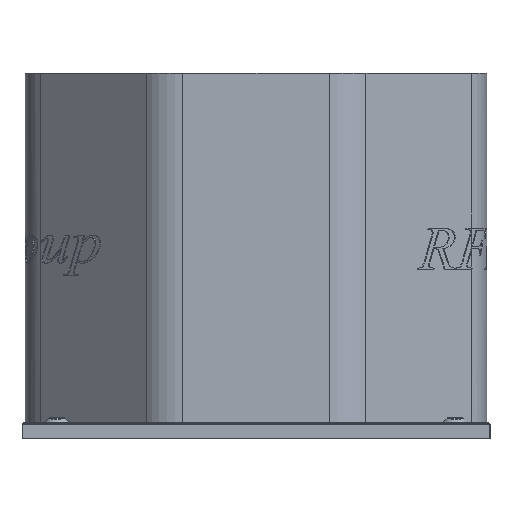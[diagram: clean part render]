
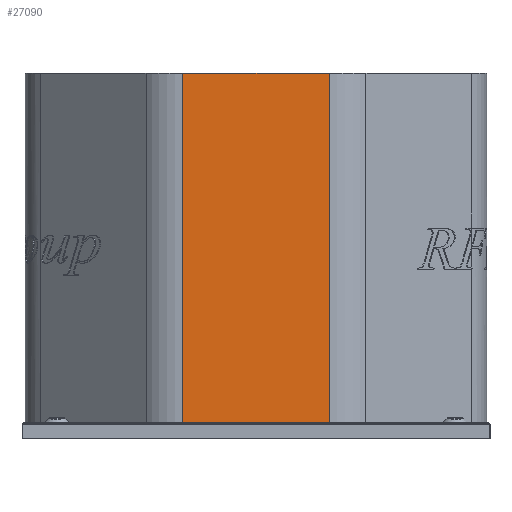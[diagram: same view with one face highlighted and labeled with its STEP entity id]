
A CAD part, front view. The second image highlights one B-rep face of the part: STEP entity #27090.
In plain terms, the highlighted planar face has unit normal (0, -1, 0).
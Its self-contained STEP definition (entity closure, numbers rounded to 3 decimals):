
#1189=PLANE('',#28805);
#2422=FACE_OUTER_BOUND('',#3964,.T.);
#3964=EDGE_LOOP('',(#22589,#22590,#22591,#22592));
#6237=LINE('',#47500,#8695);
#6238=LINE('',#47503,#8696);
#6239=LINE('',#47505,#8697);
#6240=LINE('',#47506,#8698);
#8695=VECTOR('',#33601,10.);
#8696=VECTOR('',#33604,10.);
#8697=VECTOR('',#33605,10.);
#8698=VECTOR('',#33606,10.);
#12995=VERTEX_POINT('',#47496);
#12996=VERTEX_POINT('',#47498);
#12997=VERTEX_POINT('',#47502);
#12998=VERTEX_POINT('',#47504);
#16448=EDGE_CURVE('',#12996,#12995,#6237,.T.);
#16449=EDGE_CURVE('',#12995,#12997,#6238,.T.);
#16450=EDGE_CURVE('',#12996,#12998,#6239,.T.);
#16451=EDGE_CURVE('',#12998,#12997,#6240,.T.);
#22589=ORIENTED_EDGE('',*,*,#16449,.F.);
#22590=ORIENTED_EDGE('',*,*,#16448,.F.);
#22591=ORIENTED_EDGE('',*,*,#16450,.T.);
#22592=ORIENTED_EDGE('',*,*,#16451,.T.);
#27090=ADVANCED_FACE('',(#2422),#1189,.T.);
#28805=AXIS2_PLACEMENT_3D('',#47501,#33602,#33603);
#33601=DIRECTION('',(0.,0.,-1.));
#33602=DIRECTION('center_axis',(0.,-1.,0.));
#33603=DIRECTION('ref_axis',(-1.,0.,0.));
#33604=DIRECTION('',(-1.,0.,0.));
#33605=DIRECTION('',(-1.,0.,0.));
#33606=DIRECTION('',(0.,0.,-1.));
#47496=CARTESIAN_POINT('',(657.417,185.158,317.317));
#47498=CARTESIAN_POINT('',(657.417,185.158,870.317));
#47500=CARTESIAN_POINT('',(657.417,185.158,870.317));
#47501=CARTESIAN_POINT('Origin',(657.417,185.158,870.317));
#47502=CARTESIAN_POINT('',(425.535,185.158,317.317));
#47503=CARTESIAN_POINT('',(599.447,185.158,317.317));
#47504=CARTESIAN_POINT('',(425.535,185.158,870.317));
#47505=CARTESIAN_POINT('',(657.417,185.158,870.317));
#47506=CARTESIAN_POINT('',(425.535,185.158,870.317));
